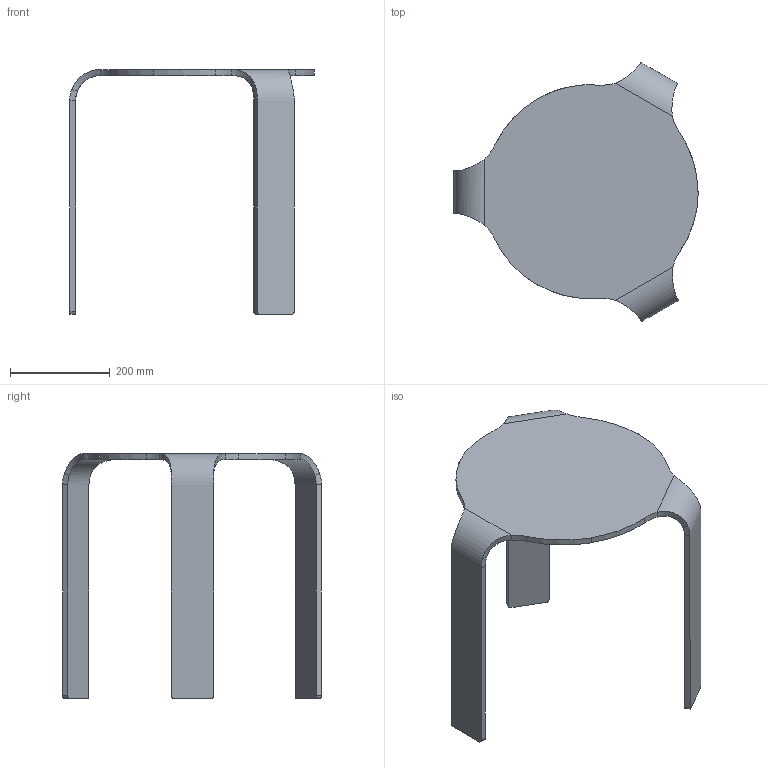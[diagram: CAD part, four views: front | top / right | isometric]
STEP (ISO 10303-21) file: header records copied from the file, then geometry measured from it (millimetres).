
FILE_DESCRIPTION(/* description */ (''),/* implementation_level */ '2;1');
FILE_NAME(/* name */ '012 - Omaggio Alvar Aalto Tris H49',/* time_stamp */ '2010-11-04T14:48:57+01:00',/* author */ (''),/* organization */ (''),/* preprocessor_version */ 'ST-DEVELOPER v10',/* originating_system */ '',/* authorisation */ '');
FILE_SCHEMA (('CONFIG_CONTROL_DESIGN'));
Length unit declared in the file: centimetre
Products named in the file (1): 1
Bounding box: 489.5 x 517.95 x 489.96 mm (x, y, z)
Volume: 3443119.9 mm3; surface area: 611786.7 mm2
Topology: 1 solids, 1 shells, 50 faces, 132 edges, 84 vertices
Faces by surface type: bspline 42, plane 8
Entity records: 2762 total; most frequent: CARTESIAN_POINT 1900, ORIENTED_EDGE 264, EDGE_CURVE 132, B_SPLINE_CURVE_WITH_KNOTS 89, VERTEX_POINT 84, ADVANCED_FACE 50, FACE_OUTER_BOUND 50, EDGE_LOOP 50
